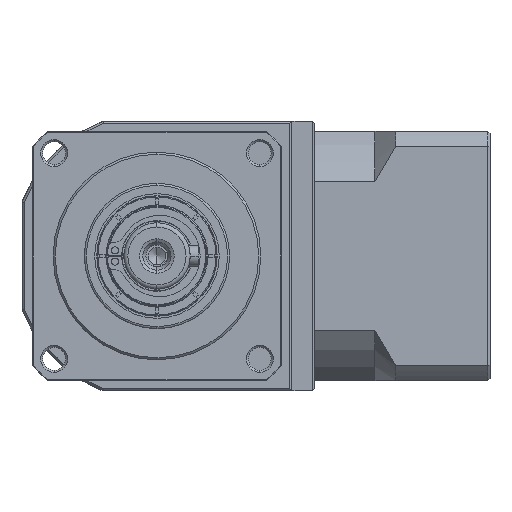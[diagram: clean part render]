
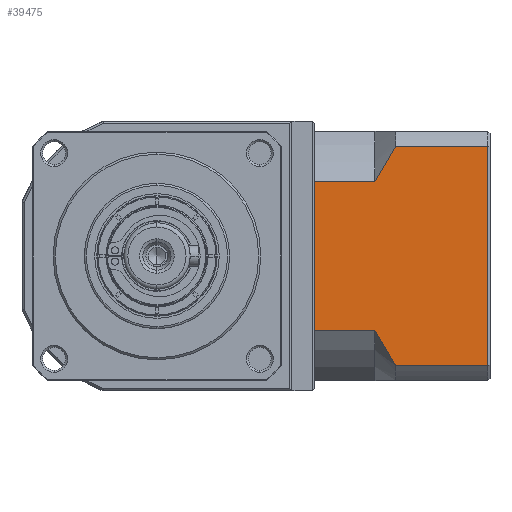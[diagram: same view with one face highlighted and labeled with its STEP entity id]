
A CAD part, left-side view. The second image highlights one B-rep face of the part: STEP entity #39475.
In plain terms, the highlighted planar face has unit normal (-1, 0, 0).
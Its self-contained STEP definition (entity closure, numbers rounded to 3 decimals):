
#1528 = CARTESIAN_POINT ( 'NONE',  ( -17.243, -70.223, -103.657 ) ) ;
#4848 = CARTESIAN_POINT ( 'NONE',  ( -17.243, -89.723, -148.143 ) ) ;
#5100 = ORIENTED_EDGE ( 'NONE', *, *, #97606, .T. ) ;
#6129 = EDGE_CURVE ( 'NONE', #152165, #51161, #49416, .T. ) ;
#6937 = ORIENTED_EDGE ( 'NONE', *, *, #127587, .F. ) ;
#8525 = VERTEX_POINT ( 'NONE', #69898 ) ;
#13884 = VECTOR ( 'NONE', #57027, 1000. ) ;
#19054 = DIRECTION ( 'NONE',  ( 0., 1., 0. ) ) ;
#20699 = EDGE_CURVE ( 'NONE', #35459, #80134, #93018, .T. ) ;
#21880 = CARTESIAN_POINT ( 'NONE',  ( -17.243, -84.723, -139.713 ) ) ;
#24510 = DIRECTION ( 'NONE',  ( 1., 0., 0. ) ) ;
#24573 = ORIENTED_EDGE ( 'NONE', *, *, #6129, .F. ) ;
#28077 = VECTOR ( 'NONE', #148154, 1000. ) ;
#28366 = CARTESIAN_POINT ( 'NONE',  ( -17.243, -87.95, -97.966 ) ) ;
#28431 = ORIENTED_EDGE ( 'NONE', *, *, #42598, .T. ) ;
#29947 = LINE ( 'NONE', #143851, #62946 ) ;
#32785 = DIRECTION ( 'NONE',  ( 0., -1., 0. ) ) ;
#33154 = CARTESIAN_POINT ( 'NONE',  ( -17.243, -84.723, -103.657 ) ) ;
#33556 = CARTESIAN_POINT ( 'NONE',  ( -17.243, -70.223, -151.685 ) ) ;
#34981 = CARTESIAN_POINT ( 'NONE',  ( -17.243, -86.274, -142.595 ) ) ;
#35459 = VERTEX_POINT ( 'NONE', #36269 ) ;
#36269 = CARTESIAN_POINT ( 'NONE',  ( -17.243, -84.723, -139.713 ) ) ;
#39475 = ADVANCED_FACE ( 'NONE', ( #93950 ), #123018, .F. ) ;
#40923 = CARTESIAN_POINT ( 'NONE',  ( -17.243, -85.471, -102.205 ) ) ;
#42598 = EDGE_CURVE ( 'NONE', #152165, #80134, #132889, .T. ) ;
#47460 = CARTESIAN_POINT ( 'NONE',  ( -17.243, -88.822, -146.78 ) ) ;
#49416 = LINE ( 'NONE', #33154, #115129 ) ;
#50024 = ORIENTED_EDGE ( 'NONE', *, *, #57091, .T. ) ;
#51161 = VERTEX_POINT ( 'NONE', #88129 ) ;
#56892 = VERTEX_POINT ( 'NONE', #141483 ) ;
#57027 = DIRECTION ( 'NONE',  ( 0., -1., 0. ) ) ;
#57091 = EDGE_CURVE ( 'NONE', #35459, #133122, #77227, .T. ) ;
#57403 = DIRECTION ( 'NONE',  ( 0., 0., 1. ) ) ;
#60127 = VECTOR ( 'NONE', #19054, 1000. ) ;
#61689 = CARTESIAN_POINT ( 'NONE',  ( -17.243, -84.723, -148.143 ) ) ;
#62946 = VECTOR ( 'NONE', #57403, 1000. ) ;
#66536 = EDGE_CURVE ( 'NONE', #56892, #8525, #29947, .T. ) ;
#69898 = CARTESIAN_POINT ( 'NONE',  ( -17.243, -111.923, -95.228 ) ) ;
#77227 = B_SPLINE_CURVE_WITH_KNOTS ( 'NONE', 3,
 ( #21880, #96650, #34981, #121429, #47460, #133896 ),
 .UNSPECIFIED., .F., .F.,
 ( 4, 2, 4 ),
 ( 0.1, 0.104, 0.109 ),
 .UNSPECIFIED. ) ;
#80134 = VERTEX_POINT ( 'NONE', #117689 ) ;
#84936 = ORIENTED_EDGE ( 'NONE', *, *, #149400, .F. ) ;
#88129 = CARTESIAN_POINT ( 'NONE',  ( -17.243, -84.723, -103.657 ) ) ;
#89583 = CARTESIAN_POINT ( 'NONE',  ( -17.243, -89.723, -95.228 ) ) ;
#90095 = CARTESIAN_POINT ( 'NONE',  ( -17.243, -88.823, -96.588 ) ) ;
#93018 = LINE ( 'NONE', #118126, #60127 ) ;
#93950 = FACE_OUTER_BOUND ( 'NONE', #139512, .T. ) ;
#95917 = CARTESIAN_POINT ( 'NONE',  ( -17.243, -89.723, -95.228 ) ) ;
#96650 = CARTESIAN_POINT ( 'NONE',  ( -17.243, -85.473, -141.169 ) ) ;
#97606 = EDGE_CURVE ( 'NONE', #147771, #51161, #125252, .T. ) ;
#98733 = CARTESIAN_POINT ( 'NONE',  ( -17.243, -112.423, -151.685 ) ) ;
#99999 = VECTOR ( 'NONE', #145466, 1000. ) ;
#109882 = ORIENTED_EDGE ( 'NONE', *, *, #20699, .F. ) ;
#111145 = DIRECTION ( 'NONE',  ( 0., 1., 0. ) ) ;
#115004 = CARTESIAN_POINT ( 'NONE',  ( -17.243, -86.274, -100.774 ) ) ;
#115129 = VECTOR ( 'NONE', #32785, 1000. ) ;
#117689 = CARTESIAN_POINT ( 'NONE',  ( -17.243, -70.223, -139.713 ) ) ;
#118126 = CARTESIAN_POINT ( 'NONE',  ( -17.243, -84.723, -139.713 ) ) ;
#121429 = CARTESIAN_POINT ( 'NONE',  ( -17.243, -87.948, -145.4 ) ) ;
#123017 = LINE ( 'NONE', #61689, #28077 ) ;
#123018 = PLANE ( 'NONE',  #127031 ) ;
#125252 = B_SPLINE_CURVE_WITH_KNOTS ( 'NONE', 3,
 ( #89583, #90095, #28366, #115004, #40923, #127418 ),
 .UNSPECIFIED., .F., .F.,
 ( 4, 2, 4 ),
 ( 0.052, 0.057, 0.062 ),
 .UNSPECIFIED. ) ;
#127031 = AXIS2_PLACEMENT_3D ( 'NONE', #98733, #24510, #111145 ) ;
#127418 = CARTESIAN_POINT ( 'NONE',  ( -17.243, -84.723, -103.657 ) ) ;
#127587 = EDGE_CURVE ( 'NONE', #147771, #8525, #141672, .T. ) ;
#132104 = CARTESIAN_POINT ( 'NONE',  ( -17.243, -84.723, -95.228 ) ) ;
#132889 = LINE ( 'NONE', #33556, #99999 ) ;
#133122 = VERTEX_POINT ( 'NONE', #4848 ) ;
#133896 = CARTESIAN_POINT ( 'NONE',  ( -17.243, -89.723, -148.143 ) ) ;
#139512 = EDGE_LOOP ( 'NONE', ( #84936, #152174, #6937, #5100, #24573, #28431, #109882, #50024 ) ) ;
#141483 = CARTESIAN_POINT ( 'NONE',  ( -17.243, -111.923, -148.143 ) ) ;
#141672 = LINE ( 'NONE', #132104, #13884 ) ;
#143851 = CARTESIAN_POINT ( 'NONE',  ( -17.243, -111.923, -151.685 ) ) ;
#145466 = DIRECTION ( 'NONE',  ( 0., 0., -1. ) ) ;
#147771 = VERTEX_POINT ( 'NONE', #95917 ) ;
#148154 = DIRECTION ( 'NONE',  ( 0., 1., 0. ) ) ;
#149400 = EDGE_CURVE ( 'NONE', #56892, #133122, #123017, .T. ) ;
#152165 = VERTEX_POINT ( 'NONE', #1528 ) ;
#152174 = ORIENTED_EDGE ( 'NONE', *, *, #66536, .T. ) ;
